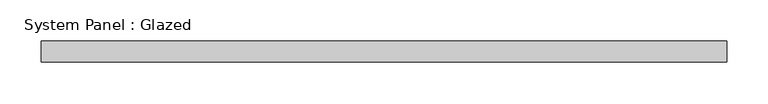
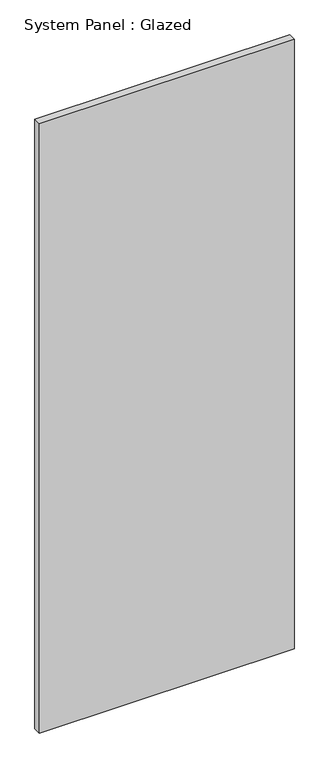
"""IFC4 building model written with IfcOpenShell, lengths in millimetres: plate geometry, System Panel : Glazed."""

from ifc_helpers import new_model, si_unit, origin, origin_with_axes, place, context, project, spatial, polyline, outline, extrude, source, transform, mapped, element, save


def system_panel_glazed_970fcf6f(model_context):
    return source(origin(), model_context, "Body", "SweptSolid", [
        extrude(outline(polyline([(414.0389939, 19.05), (-414.0389939, 19.05), (-414.0389939, 44.45), (414.0389939, 44.45), (414.0389939, 19.05)])), origin_with_axes(), (0.0, 0.0, 1.0), 2095.5),
    ])


if __name__ == "__main__":
    model = new_model("IFC4")
    model_context = context("Model", 3, world=origin())
    ifc_project = project(units=[si_unit("LENGTHUNIT", "METRE", prefix="MILLI")], contexts=[model_context])
    site = spatial("IfcSite", under=ifc_project)
    building = spatial("IfcBuilding", under=site)
    placement = place(None, origin())
    system_panel_glazed_shape = system_panel_glazed_970fcf6f(model_context)
    element("IfcPlate", 1, ObjectType="System Panel : Glazed", at=placement, inside=building, context=model_context, shape_type="MappedRepresentation", body=[
        mapped(system_panel_glazed_shape, transform((0.0, 0.0, 0.0), x_axis=(1.0, 0.0, 0.0), y_axis=(0.0, 1.0, 0.0), z_axis=(0.0, 0.0, 1.0))),
    ])
    save(model, "model.ifc")
